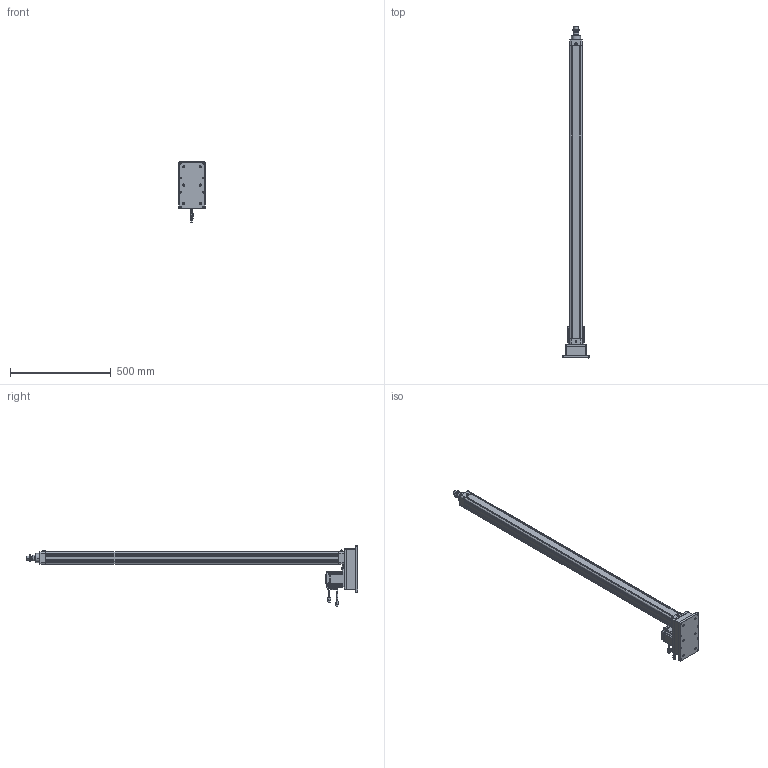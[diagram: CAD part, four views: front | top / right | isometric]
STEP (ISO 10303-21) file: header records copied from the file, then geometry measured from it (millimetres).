
FILE_DESCRIPTION((''),'2;1');
FILE_NAME('HE50-D-100-X1_ASM','2020-04-25T',('ASUS20200'),(''),'CREO PARAMETRIC BY PTC INC, 2014190','CREO PARAMETRIC BY PTC INC, 2014190','');
FILE_SCHEMA(('CONFIG_CONTROL_DESIGN'));
Length unit declared in the file: millimetre
Products named in the file (29): HE50-D-P-001-X1; HE50-D-P-002-X1; HE50-D-P-003-X1; 6301ZZ; LGLM-M8-22; SLM-01; YZ-M6X1; HE50-P-010-X1-400W; _MHMF082L1A2; _CABLE_MOTOR_BOTTOM_05; _CABLE_MOTOR_TOP_05; _MOTOR_CONNECTOR_2; _CABLE_BRAKE_BOTTOM_05; _CABLE_BRAKE_TOP_05; _MHMF_CONNECTOR_9_PIN_A6; MHMF082L1A2M2_1_ASM; TD-6; M6X25; LM-M6X1; JX6X6X20; M6X25-DS; LM-M6-15; HE50-P-012-X1; HE50-P-013-X1; M6X60; HE50-D-P-005-X1; HE50-D-P-004-X1; HE50-D-P-008-X1; HE50-D-100-X1_ASM
Assembly tree (50 placements, depth 3):
  HE50-D-100-X1_ASM
    HE50-D-P-001-X1
    HE50-D-P-002-X1
    HE50-D-P-003-X1
    6301ZZ
    LGLM-M8-22  x8
    SLM-01
    YZ-M6X1
    HE50-P-010-X1-400W
    MHMF082L1A2M2_1_ASM
      _MHMF082L1A2
      _CABLE_MOTOR_BOTTOM_05
      _CABLE_MOTOR_TOP_05
      _MOTOR_CONNECTOR_2
      _CABLE_BRAKE_BOTTOM_05
      _CABLE_BRAKE_TOP_05
      _MHMF_CONNECTOR_9_PIN_A6
    TD-6  x4
    M6X25  x4
    LM-M6X1  x5
    JX6X6X20
    M6X25-DS
    LM-M6-15
    HE50-P-012-X1
    HE50-P-013-X1
    M6X60  x6
    HE50-D-P-005-X1
    HE50-D-P-004-X1
    HE50-D-P-008-X1
Bounding box: 130 x 1648.5 x 298.65 mm (x, y, z)
Volume: 4022510.7 mm3; surface area: 1196588.9 mm2
Topology: 49 solids, 79 shells, 2744 faces, 6618 edges, 4119 vertices
Faces by surface type: plane 1159, cylinder 759, cone 643, torus 138, sphere 42, bspline 3
Entity records: 66241 total; most frequent: CARTESIAN_POINT 12515, DIRECTION 11811, ORIENTED_EDGE 10524, EDGE_CURVE 5312, AXIS2_PLACEMENT_3D 4431, VERTEX_POINT 3338, VECTOR 2949, LINE 2949
